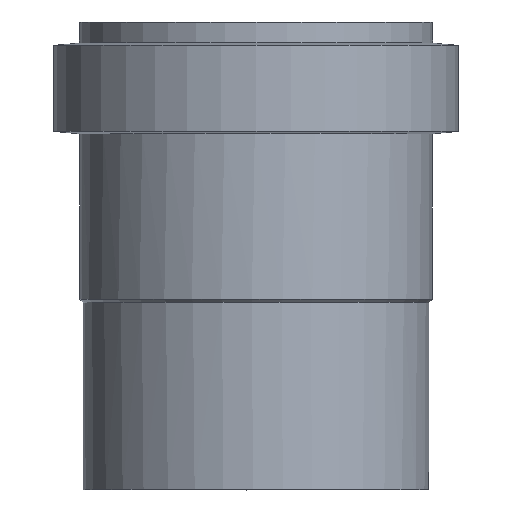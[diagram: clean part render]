
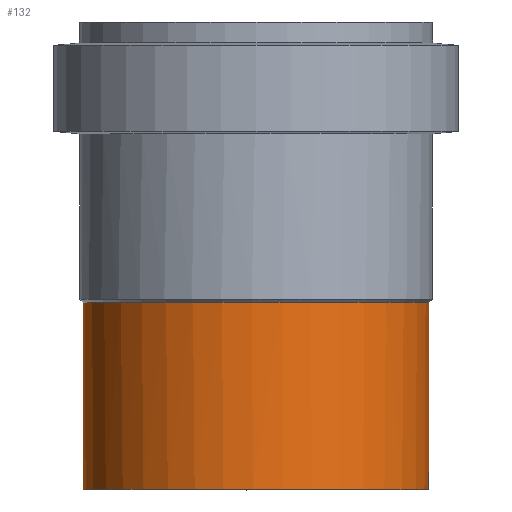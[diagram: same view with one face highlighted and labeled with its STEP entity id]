
A CAD part, top view. The second image highlights one B-rep face of the part: STEP entity #132.
In plain terms, the highlighted cylindrical face has radius 28.125 mm (diameter 56.25 mm), a full revolution.
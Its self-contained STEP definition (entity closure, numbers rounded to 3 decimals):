
#21=CYLINDRICAL_SURFACE('',#171,28.125);
#29=FACE_BOUND('',#57,.T.);
#39=FACE_OUTER_BOUND('',#56,.T.);
#56=EDGE_LOOP('',(#106));
#57=EDGE_LOOP('',(#107));
#62=CIRCLE('',#156,28.125);
#71=CIRCLE('',#172,28.125);
#72=VERTEX_POINT('',#219);
#81=VERTEX_POINT('',#244);
#82=EDGE_CURVE('',#72,#72,#62,.T.);
#91=EDGE_CURVE('',#81,#81,#71,.T.);
#106=ORIENTED_EDGE('',*,*,#82,.T.);
#107=ORIENTED_EDGE('',*,*,#91,.F.);
#132=ADVANCED_FACE('',(#39,#29),#21,.T.);
#156=AXIS2_PLACEMENT_3D('',#220,#179,#180);
#171=AXIS2_PLACEMENT_3D('',#243,#209,#210);
#172=AXIS2_PLACEMENT_3D('',#245,#211,#212);
#179=DIRECTION('center_axis',(0.,1.,0.));
#180=DIRECTION('ref_axis',(1.,0.,0.));
#209=DIRECTION('center_axis',(0.,1.,0.));
#210=DIRECTION('ref_axis',(1.,0.,0.));
#211=DIRECTION('center_axis',(0.,1.,0.));
#212=DIRECTION('ref_axis',(0.479,0.,0.878));
#219=CARTESIAN_POINT('',(-28.125,0.,0.));
#220=CARTESIAN_POINT('Origin',(0.,0.,0.));
#243=CARTESIAN_POINT('Origin',(0.,38.,0.));
#244=CARTESIAN_POINT('',(13.484,30.43,24.682));
#245=CARTESIAN_POINT('Origin',(0.,30.43,0.));
